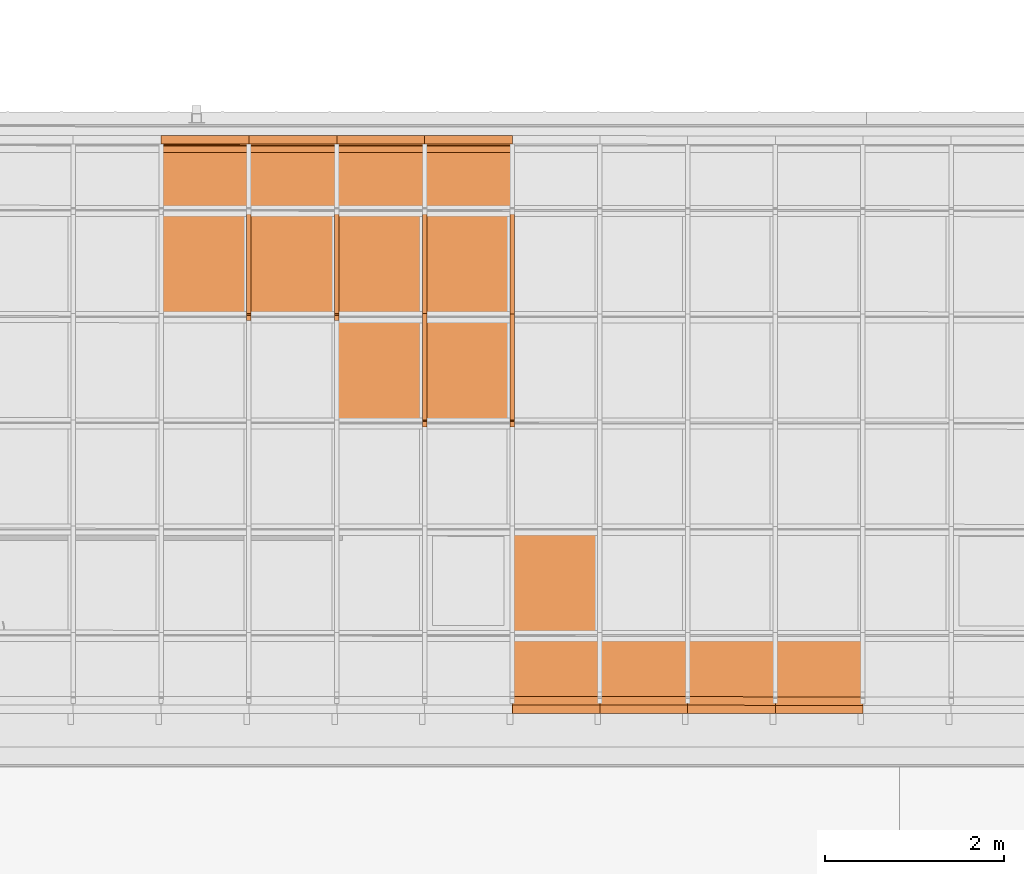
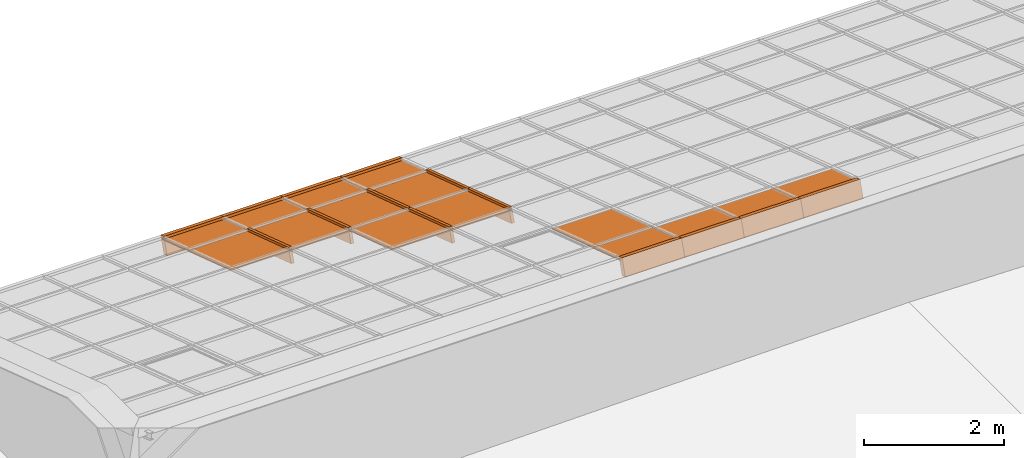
# One storey, part 33 of 47: 29 proxies, 1 element without a shape of its own.
"""IFC2X3 building model written with IfcOpenShell, lengths in millimetres."""

from ifc_helpers import new_model, entity, si_unit, converted_unit, derived_unit, money_unit, direction, frame, origin_with_axes, place, context, subcontext, project, spatial, polyline, outline, extrude, material, material_list, type_object, element, aggregate, save


model = new_model("IFC2X3")

# Units and contexts
model_context = context("Model", 3, precision=1e-05, world=origin_with_axes(), true_north=direction((0.0, 1.0)))
body_context = subcontext(model_context, "Body", "Model", "MODEL_VIEW")
ifc_project = project(units=[si_unit("LENGTHUNIT", "METRE", prefix="MILLI"), si_unit("AREAUNIT", "SQUARE_METRE"), si_unit("VOLUMEUNIT", "CUBIC_METRE"), converted_unit("PLANEANGLEUNIT", "DEGREE", entity("IfcPlaneAngleMeasure", 0.0174532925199), si_unit("PLANEANGLEUNIT", "RADIAN"), dimensions=[0, 0, 0, 0, 0, 0, 0]), si_unit("SOLIDANGLEUNIT", "STERADIAN"), money_unit("EUR"), converted_unit("TIMEUNIT", "Year", entity("IfcTimeMeasure", 31556926.0), si_unit("TIMEUNIT", "SECOND"), dimensions=[0, 0, 1, 0, 0, 0, 0]), si_unit("MASSUNIT", "GRAM", prefix="KILO"), si_unit("THERMODYNAMICTEMPERATUREUNIT", "DEGREE_CELSIUS"), si_unit("LUMINOUSINTENSITYUNIT", "LUMEN"), si_unit("ENERGYUNIT", "JOULE", prefix="MEGA"), derived_unit("THERMALCONDUCTANCEUNIT", [(si_unit("POWERUNIT", "WATT"), 1), (si_unit("LENGTHUNIT", "METRE"), -1), (si_unit("THERMODYNAMICTEMPERATUREUNIT", "KELVIN"), -1)]), derived_unit("SPECIFICHEATCAPACITYUNIT", [(si_unit("ENERGYUNIT", "JOULE"), 1), (si_unit("MASSUNIT", "GRAM", prefix="KILO"), -1), (si_unit("THERMODYNAMICTEMPERATUREUNIT", "KELVIN"), -1)]), derived_unit("MASSDENSITYUNIT", [(si_unit("MASSUNIT", "GRAM", prefix="KILO"), 1), (si_unit("VOLUMEUNIT", "CUBIC_METRE"), -1)])], contexts=[model_context])

# Site, building, storey
site_placement = place(None, origin_with_axes())
site = spatial("IfcSite", under=ifc_project, at=site_placement, Name="Site", CompositionType="ELEMENT")
building_placement = place(site_placement, origin_with_axes())
building = spatial("IfcBuilding", under=site, at=building_placement, Name="Building", CompositionType="ELEMENT")
storey_placement = place(building_placement, frame((0.0, 0.0, 6000.0), z_axis=(0.0, 0.0, 1.0), x_axis=(1.0, 0.0, 0.0)))
storey = spatial("IfcBuildingStorey", under=building, at=storey_placement, Name="KATUSEPLAAN", CompositionType="ELEMENT", Elevation=6000.0)

# Curtain wall, proxies
curtain_wall_type = type_object("IfcCurtainWallType", Name="KK-2", PredefinedType="NOTDEFINED")
curtain_wall_placement = place(storey_placement, frame((71638.1505463, 41358.6055567, 722.550081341), z_axis=(0.0, 0.0, 1.0), x_axis=(1.0, 0.0, 0.0)))
curtain_wall = element("IfcCurtainWall", 1, at=curtain_wall_placement, inside=storey, type_object=curtain_wall_type, Name="Talveaja klaaskatus")
ifc_material_1 = material(Name="Klaas")
building_element_proxy_type_1 = type_object("IfcBuildingElementProxyType", Name="Panel-Main-221", PredefinedType="NOTDEFINED")
proxy_1_placement = place(curtain_wall_placement, frame((1959.99916937, -0.563334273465, 1978.14906246), z_axis=(0.0, 0.0, 1.0), x_axis=(-0.999995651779, 0.00294896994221, 0.0)))
proxy_1 = element("IfcBuildingElementProxy", 2, at=proxy_1_placement, type_object=building_element_proxy_type_1, material=ifc_material_1, Name="Klaas;  Objekti nimi: Built-in CW Panel", context=body_context, shape_type="SweptSolid", body=[
    extrude(outline(polyline([(494.147754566, -304.892907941), (496.403760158, 500.364911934), (491.403775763, 500.378914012), (491.417792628, 505.378898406), (-488.578365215, 508.124444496), (-488.592367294, 503.124474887), (-493.59235169, 503.138462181), (-495.848357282, -302.119342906), (-490.848372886, -302.133359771), (-490.792349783, -282.133436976), (489.203808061, -284.878983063), (489.147770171, -304.878905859), (494.147754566, -304.892907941)])), frame((1.13686837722e-10, -3.12191252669, 9.5001927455), z_axis=(0.0, 0.312191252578, -0.950019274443), x_axis=(1.0, 0.0, 0.0)), (0.0, 0.0, 1.0), 20.0000000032),
])
building_element_proxy_type_2 = type_object("IfcBuildingElementProxyType", Name="Panel-Main-167", PredefinedType="NOTDEFINED")
proxy_2_placement = place(curtain_wall_placement, frame((979.999584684, 1070.15648036, 1627.24494272), z_axis=(0.0, 0.0, 1.0), x_axis=(-0.999995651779, 0.00294896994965, 0.0)))
proxy_2 = element("IfcBuildingElementProxy", 3, at=proxy_2_placement, type_object=building_element_proxy_type_2, material=ifc_material_1, Name="Klaas;  Objekti nimi: Built-in CW Panel", context=body_context, shape_type="SweptSolid", body=[
    extrude(outline(polyline([(488.233079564, -631.370301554), (488.247097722, -626.370316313), (493.247064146, -626.38433447), (496.749044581, 623.610771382), (491.749059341, 623.624770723), (491.763077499, 628.624755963), (-488.233069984, 631.370301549), (-488.247088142, 626.370316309), (-493.247073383, 626.38431565), (-496.749035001, -623.610752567), (-491.749049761, -623.624770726), (-491.763067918, -628.624755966), (488.233079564, -631.370301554)])), frame((0.0, -3.12191252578, 9.50019274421), z_axis=(0.0, 0.312191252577, -0.950019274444), x_axis=(1.0, 0.0, 0.0)), (0.0, 0.0, 1.0), 20.0000000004),
])
building_element_proxy_type_3 = type_object("IfcBuildingElementProxyType", Name="Panel-Dist-157", PredefinedType="NOTDEFINED")
proxy_3_placement = place(curtain_wall_placement, frame((-2944.49875215, 4633.85823123, 459.964819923), z_axis=(0.0, 0.0, 1.0), x_axis=(-0.999995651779, 0.0029489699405, 0.0)))
proxy_3 = element("IfcBuildingElementProxy", 4, at=proxy_3_placement, type_object=building_element_proxy_type_3, material=ifc_material_1, Name="Klaas;  Objekti nimi: Built-in CW Panel", context=body_context, shape_type="SweptSolid", body=[
    extrude(outline(polyline([(489.73307344, -631.374503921), (489.747091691, -626.374523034), (494.747072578, -626.388522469), (498.249038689, 623.606567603), (493.249057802, 623.620567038), (493.263057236, 628.620547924), (-489.733083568, 631.374503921), (-489.747101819, 626.374523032), (-494.747082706, 626.388522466), (-498.249048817, -623.606567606), (-493.24906793, -623.62056704), (-493.263067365, -628.620547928), (489.73307344, -631.374503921)])), frame((0.0, -3.12191252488, 9.50019274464), z_axis=(0.0, 0.312191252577, -0.950019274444), x_axis=(1.0, 0.0, 0.0)), (0.0, 0.0, 1.0), 20.0000000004),
])
building_element_proxy_type_4 = type_object("IfcBuildingElementProxyType", Name="Panel-Main-126", PredefinedType="NOTDEFINED")
proxy_4_placement = place(curtain_wall_placement, frame((-1961.49916873, 4633.57570185, 459.105060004), z_axis=(0.0, 0.0, 1.0), x_axis=(-0.999995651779, 0.0029489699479, 0.0)))
proxy_4 = element("IfcBuildingElementProxy", 5, at=proxy_4_placement, type_object=building_element_proxy_type_4, material=ifc_material_1, Name="Klaas;  Objekti nimi: Built-in CW Panel", context=body_context, shape_type="SweptSolid", body=[
    extrude(outline(polyline([(489.733073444, -631.374503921), (489.747091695, -626.374523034), (494.747072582, -626.388522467), (498.249038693, 623.606567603), (493.249057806, 623.620567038), (493.263057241, 628.620547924), (-489.733083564, 631.374503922), (-489.747101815, 626.374523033), (-494.747082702, 626.388522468), (-498.249048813, -623.606567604), (-493.249067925, -623.620567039), (-493.26306736, -628.620547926), (489.733073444, -631.374503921)])), frame((1.13686837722e-10, -3.12191252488, 9.50019274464), z_axis=(0.0, 0.312191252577, -0.950019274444), x_axis=(1.0, 0.0, 0.0)), (0.0, 0.0, 1.0), 20.0000000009),
])
building_element_proxy_type_5 = type_object("IfcBuildingElementProxyType", Name="Panel-Dist-158", PredefinedType="NOTDEFINED")
proxy_5_placement = place(curtain_wall_placement, frame((-979.999584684, 4633.29360359, 458.246612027), z_axis=(0.0, 0.0, 1.0), x_axis=(-0.999995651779, 0.00294896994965, 0.0)))
proxy_5 = element("IfcBuildingElementProxy", 6, at=proxy_5_placement, type_object=building_element_proxy_type_5, material=ifc_material_1, Name="Klaas;  Objekti nimi: Built-in CW Panel", context=body_context, shape_type="SweptSolid", body=[
    extrude(outline(polyline([(488.233079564, -631.370301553), (488.247097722, -626.370316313), (493.247064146, -626.384334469), (496.749044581, 623.610771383), (491.74905934, 623.624770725), (491.763077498, 628.624755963), (-488.233069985, 631.370301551), (-488.247088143, 626.370316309), (-493.247073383, 626.38431565), (-496.749035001, -623.610752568), (-491.749049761, -623.624770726), (-491.763067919, -628.624755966), (488.233079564, -631.370301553)])), frame((1.13686837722e-10, -3.12191252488, 9.50019274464), z_axis=(0.0, 0.312191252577, -0.950019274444), x_axis=(1.0, 0.0, 0.0)), (0.0, 0.0, 1.0), 20.0000000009),
])
building_element_proxy_type_6 = type_object("IfcBuildingElementProxyType", Name="Panel-Main-127", PredefinedType="NOTDEFINED")
proxy_6_placement = place(curtain_wall_placement, frame((0.0, 4633.01193645, 457.389475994), z_axis=(0.0, 0.0, 1.0), x_axis=(-0.999995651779, 0.00294896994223, 0.0)))
proxy_6 = element("IfcBuildingElementProxy", 7, at=proxy_6_placement, type_object=building_element_proxy_type_6, material=ifc_material_1, Name="Klaas;  Objekti nimi: Built-in CW Panel", context=body_context, shape_type="SweptSolid", body=[
    extrude(outline(polyline([(488.23307956, -631.370301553), (488.247097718, -626.370316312), (493.247064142, -626.38433447), (496.749044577, 623.610771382), (491.749059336, 623.624770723), (491.763077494, 628.624755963), (-488.233069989, 631.37030155), (-488.247088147, 626.37031631), (-493.247073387, 626.384315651), (-496.749035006, -623.610752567), (-491.749049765, -623.624770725), (-491.763067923, -628.624755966), (488.23307956, -631.370301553)])), frame((1.13686837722e-10, -3.12191252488, 9.50019274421), z_axis=(0.0, 0.312191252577, -0.950019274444), x_axis=(1.0, 0.0, 0.0)), (0.0, 0.0, 1.0), 20.0000000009),
])
building_element_proxy_type_7 = type_object("IfcBuildingElementProxyType", Name="Panel-Main-138", PredefinedType="NOTDEFINED")
proxy_7_placement = place(curtain_wall_placement, frame((-979.999584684, 3445.76900727, 848.484146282), z_axis=(0.0, 0.0, 1.0), x_axis=(-0.999995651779, 0.00294896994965, 0.0)))
proxy_7 = element("IfcBuildingElementProxy", 8, at=proxy_7_placement, type_object=building_element_proxy_type_7, material=ifc_material_1, Name="Klaas;  Objekti nimi: Built-in CW Panel", context=body_context, shape_type="SweptSolid", body=[
    extrude(outline(polyline([(488.233079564, -631.370301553), (488.247097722, -626.370316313), (493.247064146, -626.38433447), (496.749044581, 623.610771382), (491.74905934, 623.624770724), (491.763077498, 628.624755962), (-488.233069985, 631.37030155), (-488.247088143, 626.370316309), (-493.247073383, 626.38431565), (-496.749035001, -623.610752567), (-491.749049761, -623.624770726), (-491.763067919, -628.624755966), (488.233079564, -631.370301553)])), frame((1.13686837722e-10, -3.12191252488, 9.50019274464), z_axis=(0.0, 0.312191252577, -0.950019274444), x_axis=(1.0, 0.0, 0.0)), (0.0, 0.0, 1.0), 20.0000000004),
])
building_element_proxy_type_8 = type_object("IfcBuildingElementProxyType", Name="Panel-Dist-170", PredefinedType="NOTDEFINED")
proxy_8_placement = place(curtain_wall_placement, frame((0.0, 3445.48734013, 847.627010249), z_axis=(0.0, 0.0, 1.0), x_axis=(-0.999995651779, 0.00294896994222, 0.0)))
proxy_8 = element("IfcBuildingElementProxy", 9, at=proxy_8_placement, type_object=building_element_proxy_type_8, material=ifc_material_1, Name="Klaas;  Objekti nimi: Built-in CW Panel", context=body_context, shape_type="SweptSolid", body=[
    extrude(outline(polyline([(488.23307956, -631.370301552), (488.247097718, -626.370316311), (493.247064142, -626.384334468), (496.749044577, 623.610771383), (491.749059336, 623.624770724), (491.763077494, 628.624755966), (-488.233069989, 631.370301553), (-488.247088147, 626.370316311), (-493.247073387, 626.384315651), (-496.749035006, -623.610752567), (-491.749049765, -623.624770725), (-491.763067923, -628.624755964), (488.23307956, -631.370301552)])), frame((0.0, -3.12191252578, 9.50019274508), z_axis=(0.0, 0.312191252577, -0.950019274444), x_axis=(1.0, 0.0, 0.0)), (0.0, 0.0, 1.0), 20.0000000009),
])
building_element_proxy_type_9 = type_object("IfcBuildingElementProxyType", Name="Panel-Main-072", PredefinedType="NOTDEFINED")
proxy_9_placement = place(curtain_wall_placement, frame((0.0, 5604.28308921, 138.21591031), z_axis=(0.0, 0.0, 1.0), x_axis=(-0.999995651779, 0.00294896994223, 0.0)))
proxy_9 = element("IfcBuildingElementProxy", 10, at=proxy_9_placement, type_object=building_element_proxy_type_9, material=ifc_material_1, Name="Klaas;  Objekti nimi: Built-in CW Panel", context=body_context, shape_type="SweptSolid", body=[
    extrude(outline(polyline([(488.870818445, -403.740707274), (488.884820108, -398.740723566), (493.88478903, -398.754740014), (496.111319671, 395.981176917), (491.111335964, 395.995178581), (491.055314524, 375.995258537), (-488.940856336, 378.740796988), (-488.884805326, 398.740731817), (-493.884789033, 398.75473348), (-496.111319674, -395.981168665), (-491.111335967, -395.995170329), (-491.12533763, -400.995154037), (488.870818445, -403.740707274)])), frame((1.13686837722e-10, -3.12191252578, 9.50019274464), z_axis=(0.0, 0.312191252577, -0.950019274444), x_axis=(1.0, 0.0, 0.0)), (0.0, 0.0, 1.0), 20.0000000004),
])
building_element_proxy_type_10 = type_object("IfcBuildingElementProxyType", Name="Panel-Main-219", PredefinedType="NOTDEFINED")
proxy_10_placement = place(curtain_wall_placement, frame((3919.99833874, -1.12666854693, 1976.43479039), z_axis=(0.0, 0.0, 1.0), x_axis=(-0.999995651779, 0.00294896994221, 0.0)))
proxy_10 = element("IfcBuildingElementProxy", 11, at=proxy_10_placement, type_object=building_element_proxy_type_10, material=ifc_material_1, Name="Klaas;  Objekti nimi: Built-in CW Panel", context=body_context, shape_type="SweptSolid", body=[
    extrude(outline(polyline([(494.147754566, -304.892907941), (496.403760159, 500.364911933), (491.403775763, 500.378914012), (491.417792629, 505.378898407), (-488.578365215, 508.124444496), (-488.592367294, 503.124474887), (-493.59235169, 503.13846218), (-495.848357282, -302.119342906), (-490.848372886, -302.13335977), (-490.792349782, -282.133436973), (489.203808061, -284.878983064), (489.147770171, -304.87890586), (494.147754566, -304.892907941)])), frame((2.27373675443e-10, -3.12191252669, 9.5001927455), z_axis=(0.0, 0.312191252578, -0.950019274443), x_axis=(1.0, 0.0, 0.0)), (0.0, 0.0, 1.0), 20.0000000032),
])
building_element_proxy_type_11 = type_object("IfcBuildingElementProxyType", Name="Panel-Main-117", PredefinedType="NOTDEFINED")
proxy_11_placement = place(curtain_wall_placement, frame((-979.999584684, 5604.56475634, 139.073046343), z_axis=(0.0, 0.0, 1.0), x_axis=(-0.999995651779, 0.00294896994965, 0.0)))
proxy_11 = element("IfcBuildingElementProxy", 12, at=proxy_11_placement, type_object=building_element_proxy_type_11, material=ifc_material_1, Name="Klaas;  Objekti nimi: Built-in CW Panel", context=body_context, shape_type="SweptSolid", body=[
    extrude(outline(polyline([(488.870818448, -403.740707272), (488.884820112, -398.740723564), (493.884789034, -398.754740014), (496.111319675, 395.981176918), (491.111335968, 395.995178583), (491.055314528, 375.99525854), (-488.940856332, 378.740796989), (-488.884805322, 398.740731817), (-493.884789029, 398.754733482), (-496.11131967, -395.981168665), (-491.111335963, -395.99517033), (-491.125337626, -400.995154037), (488.870818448, -403.740707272)])), frame((2.27373675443e-10, -3.12191252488, 9.50019274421), z_axis=(0.0, 0.312191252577, -0.950019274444), x_axis=(1.0, 0.0, 0.0)), (0.0, 0.0, 1.0), 20.0),
])
building_element_proxy_type_12 = type_object("IfcBuildingElementProxyType", Name="Panel-Main-222", PredefinedType="NOTDEFINED")
proxy_12_placement = place(curtain_wall_placement, frame((979.999584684, -0.281667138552, 1979.00619849), z_axis=(0.0, 0.0, 1.0), x_axis=(-0.999995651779, 0.00294896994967, 0.0)))
proxy_12 = element("IfcBuildingElementProxy", 13, at=proxy_12_placement, type_object=building_element_proxy_type_12, material=ifc_material_1, Name="Klaas;  Objekti nimi: Built-in CW Panel", context=body_context, shape_type="SweptSolid", body=[
    extrude(outline(polyline([(494.14775457, -304.892907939), (496.403760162, 500.364911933), (491.403790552, 500.378899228), (491.417792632, 505.378898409), (-488.578350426, 508.124444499), (-488.592382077, 503.124474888), (-493.592336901, 503.138462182), (-495.848357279, -302.119357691), (-490.848372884, -302.13335977), (-490.792349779, -282.133422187), (489.203808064, -284.878968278), (489.147770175, -304.878905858), (494.14775457, -304.892907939)])), frame((1.13686837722e-10, -3.12191252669, 9.50019274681), z_axis=(0.0, 0.312191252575, -0.950019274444), x_axis=(1.0, 0.0, 0.0)), (0.0, 0.0, 1.0), 20.0000000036),
])
building_element_proxy_type_13 = type_object("IfcBuildingElementProxyType", Name="Panel-Main-123", PredefinedType="NOTDEFINED")
proxy_13_placement = place(curtain_wall_placement, frame((-2944.49875215, 5605.12938399, 140.791254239), z_axis=(0.0, 0.0, 1.0), x_axis=(-0.999995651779, 0.00294896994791, 0.0)))
proxy_13 = element("IfcBuildingElementProxy", 14, at=proxy_13_placement, type_object=building_element_proxy_type_13, material=ifc_material_1, Name="Klaas;  Objekti nimi: Built-in CW Panel", context=body_context, shape_type="SweptSolid", body=[
    extrude(outline(polyline([(490.370795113, -403.744911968), (490.384809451, -398.744922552), (495.384784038, -398.75893689), (497.611313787, 395.976963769), (492.6113392, 395.990978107), (492.55529668, 375.991050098), (-490.440837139, 378.745008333), (-490.384809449, 398.744936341), (-495.384798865, 398.758935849), (-497.611313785, -395.976964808), (-492.611339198, -395.990964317), (-492.625338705, -400.990953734), (490.370795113, -403.744911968)])), frame((0.0, -3.12191252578, 9.50019274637), z_axis=(0.0, 0.312191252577, -0.950019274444), x_axis=(1.0, 0.0, 0.0)), (0.0, 0.0, 1.0), 20.0000000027),
])
building_element_proxy_type_14 = type_object("IfcBuildingElementProxyType", Name="Panel-Main-220", PredefinedType="NOTDEFINED")
proxy_14_placement = place(curtain_wall_placement, frame((2939.99875405, -0.845001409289, 1977.29192642), z_axis=(0.0, 0.0, 1.0), x_axis=(-0.999995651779, 0.00294896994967, 0.0)))
proxy_14 = element("IfcBuildingElementProxy", 15, at=proxy_14_placement, type_object=building_element_proxy_type_14, material=ifc_material_1, Name="Klaas;  Objekti nimi: Built-in CW Panel", context=body_context, shape_type="SweptSolid", body=[
    extrude(outline(polyline([(494.14775457, -304.892907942), (496.403760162, 500.36491193), (491.403790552, 500.378899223), (491.417792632, 505.378898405), (-488.578350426, 508.124444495), (-488.592382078, 503.124474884), (-493.592336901, 503.138462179), (-495.848357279, -302.119357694), (-490.848372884, -302.133359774), (-490.79234978, -282.133422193), (489.203808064, -284.87896828), (489.147770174, -304.878905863), (494.14775457, -304.892907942)])), frame((0.0, -3.12191252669, 9.50019274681), z_axis=(0.0, 0.312191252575, -0.950019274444), x_axis=(1.0, 0.0, 0.0)), (0.0, 0.0, 1.0), 20.0000000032),
])
building_element_proxy_type_15 = type_object("IfcBuildingElementProxyType", Name="Panel-Main-071", PredefinedType="NOTDEFINED")
proxy_15_placement = place(curtain_wall_placement, frame((-1961.49916873, 5604.8468546, 139.93149432), z_axis=(0.0, 0.0, 1.0), x_axis=(-0.999995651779, 0.00294896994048, 0.0)))
proxy_15 = element("IfcBuildingElementProxy", 16, at=proxy_15_placement, type_object=building_element_proxy_type_15, material=ifc_material_1, Name="Klaas;  Objekti nimi: Built-in CW Panel", context=body_context, shape_type="SweptSolid", body=[
    extrude(outline(polyline([(490.37079511, -403.744911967), (490.384809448, -398.744922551), (495.384784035, -398.758936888), (497.611313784, 395.97696377), (492.611339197, 395.990978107), (492.555296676, 375.9910501), (-490.440837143, 378.745008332), (-490.384809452, 398.744936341), (-495.384798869, 398.758935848), (-497.611313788, -395.976964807), (-492.611339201, -395.990964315), (-492.625338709, -400.990953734), (490.37079511, -403.744911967)])), frame((1.13686837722e-10, -3.12191252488, 9.50019274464), z_axis=(0.0, 0.312191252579, -0.950019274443), x_axis=(1.0, 0.0, 0.0)), (0.0, 0.0, 1.0), 20.0000000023),
])
ifc_material_2 = material(Name="Alumiinium (1)")
ifc_material_list = material_list([ifc_material_2, ifc_material_2])
building_element_proxy_type_16 = type_object("IfcBuildingElementProxyType", Name="Frame-Mll-221", PredefinedType="NOTDEFINED")
proxy_16_placement = place(curtain_wall_placement, frame((-2452.99896044, 5227.4792647, 264.416172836), z_axis=(0.0, -0.950019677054, 0.312190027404), x_axis=(-0.999999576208, 0.000287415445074, 0.000874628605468)))
proxy_16 = element("IfcBuildingElementProxy", 17, at=proxy_16_placement, type_object=building_element_proxy_type_16, material=ifc_material_list, Name="Alumiinium (1);  Objekti nimi: Frame 22", context=body_context, shape_type="SweptSolid", body=[
    extrude(outline(polyline([(25.0091958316, 9.9769796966), (25.1841179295, 199.976899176), (-24.8158608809, 200.022931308), (-24.9907829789, 10.0230118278), (25.0091958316, 9.9769796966)])), frame((0.0, 0.0, -1.81898940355e-09), z_axis=(0.0, 0.0, 1.0), x_axis=(0.999999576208, 0.000920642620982, 0.0)), (0.0, 0.0, 1.0), 1250.0),
    extrude(outline(polyline([(-25.0091958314, -9.9769796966), (-25.0460215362, -49.9769627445), (24.9539572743, -50.0229948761), (24.9907829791, -10.0230118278), (-25.0091958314, -9.9769796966)])), frame((0.0, 0.0, -9.09494701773e-10), z_axis=(0.0, 0.0, 1.0), x_axis=(0.999999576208, 0.000920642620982, 0.0)), (0.0, 0.0, 1.0), 1250.0),
])
building_element_proxy_type_17 = type_object("IfcBuildingElementProxyType", Name="Frame-Mll-222", PredefinedType="NOTDEFINED")
proxy_17_placement = place(curtain_wall_placement, frame((-1469.99937703, 5227.19673532, 263.556412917), z_axis=(0.0, -0.950019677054, 0.312190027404), x_axis=(-0.999999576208, 0.000287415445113, 0.000874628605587)))
proxy_17 = element("IfcBuildingElementProxy", 18, at=proxy_17_placement, type_object=building_element_proxy_type_17, material=ifc_material_list, Name="Alumiinium (1);  Objekti nimi: Frame 22", context=body_context, shape_type="SweptSolid", body=[
    extrude(outline(polyline([(25.0091958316, 9.97697969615), (25.1841179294, 199.976899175), (-24.8158608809, 200.022931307), (-24.990782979, 10.0230118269), (25.0091958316, 9.97697969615)])), frame((0.0, 0.0, 0.0), z_axis=(0.0, 0.0, 1.0), x_axis=(0.999999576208, 0.000920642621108, 0.0)), (0.0, 0.0, 1.0), 1250.0),
    extrude(outline(polyline([(-25.0091958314, -9.97697969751), (-25.0460215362, -49.9769627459), (24.9539572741, -50.0229948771), (24.990782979, -10.0230118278), (-25.0091958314, -9.97697969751)])), frame((0.0, 0.0, 0.0), z_axis=(0.0, 0.0, 1.0), x_axis=(0.999999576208, 0.000920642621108, 0.0)), (0.0, 0.0, 1.0), 1250.0),
])
building_element_proxy_type_18 = type_object("IfcBuildingElementProxyType", Name="Frame-Mll-223", PredefinedType="NOTDEFINED")
proxy_18_placement = place(curtain_wall_placement, frame((-489.999792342, 5226.91506818, 262.699276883), z_axis=(0.0, -0.950019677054, 0.312190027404), x_axis=(-0.999999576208, 0.000287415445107, 0.00087462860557)))
proxy_18 = element("IfcBuildingElementProxy", 19, at=proxy_18_placement, type_object=building_element_proxy_type_18, material=ifc_material_list, Name="Alumiinium (1);  Objekti nimi: Frame 22", context=body_context, shape_type="SweptSolid", body=[
    extrude(outline(polyline([(25.0091958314, 9.9769796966), (25.1841179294, 199.976899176), (-24.8158608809, 200.022931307), (-24.990782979, 10.0230118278), (25.0091958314, 9.9769796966)])), frame((0.0, 0.0, -2.72848410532e-09), z_axis=(0.0, 0.0, 1.0), x_axis=(0.999999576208, 0.00092064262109, 0.0)), (0.0, 0.0, 1.0), 1250.0),
    extrude(outline(polyline([(-25.0091958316, -9.97697969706), (-25.0460215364, -49.9769627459), (24.9539572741, -50.0229948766), (24.990782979, -10.0230118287), (-25.0091958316, -9.97697969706)])), frame((0.0, 0.0, -2.72848410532e-09), z_axis=(0.0, 0.0, 1.0), x_axis=(0.999999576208, 0.00092064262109, 0.0)), (0.0, 0.0, 1.0), 1250.0),
])
building_element_proxy_type_19 = type_object("IfcBuildingElementProxyType", Name="Frame-Mll-224", PredefinedType="NOTDEFINED")
proxy_19_placement = place(curtain_wall_placement, frame((489.999792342, 5226.63340104, 261.84214085), z_axis=(0.0, -0.950019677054, 0.312190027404), x_axis=(-0.999999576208, 0.000287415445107, 0.00087462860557)))
proxy_19 = element("IfcBuildingElementProxy", 20, at=proxy_19_placement, type_object=building_element_proxy_type_19, material=ifc_material_list, Name="Alumiinium (1);  Objekti nimi: Frame 22", context=body_context, shape_type="SweptSolid", body=[
    extrude(outline(polyline([(25.0091958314, 9.9769796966), (25.1841179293, 199.976899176), (-24.8158608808, 200.022931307), (-24.990782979, 10.0230118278), (25.0091958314, 9.9769796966)])), frame((0.0, 0.0, -1.81898940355e-09), z_axis=(0.0, 0.0, 1.0), x_axis=(0.999999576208, 0.00092064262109, 0.0)), (0.0, 0.0, 1.0), 1250.0),
    extrude(outline(polyline([(-25.0091958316, -9.9769796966), (-25.0460215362, -49.9769627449), (24.9539572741, -50.0229948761), (24.9907829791, -10.0230118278), (-25.0091958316, -9.9769796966)])), frame((0.0, 0.0, -1.81898940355e-09), z_axis=(0.0, 0.0, 1.0), x_axis=(0.999999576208, 0.00092064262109, 0.0)), (0.0, 0.0, 1.0), 1250.0),
])
building_element_proxy_type_20 = type_object("IfcBuildingElementProxyType", Name="Frame-Mll-246", PredefinedType="NOTDEFINED")
proxy_20_placement = place(curtain_wall_placement, frame((-489.999792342, 4039.39047186, 652.936811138), z_axis=(0.0, -0.950019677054, 0.312190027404), x_axis=(-0.999999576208, 0.000287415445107, 0.00087462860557)))
proxy_20 = element("IfcBuildingElementProxy", 21, at=proxy_20_placement, type_object=building_element_proxy_type_20, material=ifc_material_list, Name="Alumiinium (1);  Objekti nimi: Frame 22", context=body_context, shape_type="SweptSolid", body=[
    extrude(outline(polyline([(25.0091958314, 9.97697969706), (25.1841179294, 199.976899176), (-24.8158608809, 200.022931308), (-24.9907829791, 10.0230118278), (25.0091958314, 9.97697969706)])), frame((0.0, 0.0, 0.0), z_axis=(0.0, 0.0, 1.0), x_axis=(0.999999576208, 0.00092064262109, 0.0)), (0.0, 0.0, 1.0), 1250.0),
    extrude(outline(polyline([(-25.0091958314, -9.97697969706), (-25.0460215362, -49.9769627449), (24.9539572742, -50.0229948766), (24.990782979, -10.0230118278), (-25.0091958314, -9.97697969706)])), frame((0.0, 0.0, -9.09494701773e-10), z_axis=(0.0, 0.0, 1.0), x_axis=(0.999999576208, 0.00092064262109, 0.0)), (0.0, 0.0, 1.0), 1250.0),
])
building_element_proxy_type_21 = type_object("IfcBuildingElementProxyType", Name="Frame-Mll-247", PredefinedType="NOTDEFINED")
proxy_21_placement = place(curtain_wall_placement, frame((489.999792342, 4039.10880473, 652.079675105), z_axis=(0.0, -0.950019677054, 0.312190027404), x_axis=(-0.999999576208, 0.000287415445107, 0.00087462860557)))
proxy_21 = element("IfcBuildingElementProxy", 22, at=proxy_21_placement, type_object=building_element_proxy_type_21, material=ifc_material_list, Name="Alumiinium (1);  Objekti nimi: Frame 22", context=body_context, shape_type="SweptSolid", body=[
    extrude(outline(polyline([(25.0091958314, 9.97697969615), (25.1841179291, 199.976899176), (-24.8158608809, 200.022931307), (-24.9907829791, 10.0230118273), (25.0091958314, 9.97697969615)])), frame((0.0, 4.54747350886e-10, -2.72848410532e-09), z_axis=(0.0, 0.0, 1.0), x_axis=(0.999999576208, 0.00092064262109, 0.0)), (0.0, 0.0, 1.0), 1250.0),
    extrude(outline(polyline([(-25.0091958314, -9.97697969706), (-25.0460215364, -49.9769627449), (24.9539572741, -50.0229948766), (24.990782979, -10.0230118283), (-25.0091958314, -9.97697969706)])), frame((0.0, 0.0, -9.09494701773e-10), z_axis=(0.0, 0.0, 1.0), x_axis=(0.999999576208, 0.00092064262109, 0.0)), (0.0, 0.0, 1.0), 1250.0),
])
building_element_proxy_type_22 = type_object("IfcBuildingElementProxyType", Name="Frame-Bnd-652", PredefinedType="NOTDEFINED")
proxy_22_placement = place(curtain_wall_placement, frame((4409.99813108, -289.605426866, 2070.75818047), z_axis=(-0.999999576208, 0.00028741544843, 0.000874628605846), x_axis=(0.0, 0.950019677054, -0.312190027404)))
proxy_22 = element("IfcBuildingElementProxy", 23, at=proxy_22_placement, type_object=building_element_proxy_type_22, material=ifc_material_2, Name="Alumiinium (1);  Objekti nimi: Built-in Frame", context=body_context, shape_type="SweptSolid", body=[
    extrude(outline(polyline([(15.8784912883, 15.7439993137), (44.379080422, 25.109703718), (-30.5465548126, 253.114416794), (-125.548518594, 221.895402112), (-31.8914745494, -63.110489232), (63.1104892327, -31.8914745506), (50.6228833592, 6.10931096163), (22.1222942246, -3.25639344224), (15.8784912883, 15.7439993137)])), frame((0.0, 0.0, -2.27373675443e-10), z_axis=(0.0, 0.0, 1.0), x_axis=(0.950019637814, -0.312190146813, 0.0)), (0.0, 0.0, 1.0), 980.000000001),
])
building_element_proxy_type_23 = type_object("IfcBuildingElementProxyType", Name="Frame-Bnd-653", PredefinedType="NOTDEFINED")
proxy_23_placement = place(curtain_wall_placement, frame((3429.9985464, -289.323759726, 2071.6153165), z_axis=(-0.999999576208, 0.000287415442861, 0.000874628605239), x_axis=(0.0, 0.950019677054, -0.312190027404)))
proxy_23 = element("IfcBuildingElementProxy", 24, at=proxy_23_placement, type_object=building_element_proxy_type_23, material=ifc_material_2, Name="Alumiinium (1);  Objekti nimi: Built-in Frame", context=body_context, shape_type="SweptSolid", body=[
    extrude(outline(polyline([(15.8784912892, 15.7439993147), (44.3790804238, 25.1097037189), (-30.5465548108, 253.114416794), (-125.548518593, 221.895402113), (-31.8914745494, -63.1104892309), (63.1104892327, -31.8914745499), (50.6228833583, 6.10931096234), (22.1222942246, -3.25639344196), (15.8784912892, 15.7439993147)])), frame((0.0, 0.0, -4.54747350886e-10), z_axis=(0.0, 0.0, 1.0), x_axis=(0.950019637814, -0.312190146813, 0.0)), (0.0, 0.0, 1.0), 980.000000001),
])
building_element_proxy_type_24 = type_object("IfcBuildingElementProxyType", Name="Frame-Bnd-615", PredefinedType="NOTDEFINED")
proxy_24_placement = place(curtain_wall_placement, frame((-1469.99937703, 5982.21444451, 15.4468158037), z_axis=(0.999999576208, -0.00028741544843, -0.00087462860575), x_axis=(0.0, -0.950019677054, 0.312190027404)))
proxy_24 = element("IfcBuildingElementProxy", 25, at=proxy_24_placement, type_object=building_element_proxy_type_24, material=ifc_material_2, Name="Alumiinium (1);  Objekti nimi: Built-in Frame", context=body_context, shape_type="SweptSolid", body=[
    extrude(outline(polyline([(22.1222942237, 3.25639344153), (50.6228833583, -6.10931096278), (125.548518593, 221.895402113), (30.5465548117, 253.114416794), (-63.1104892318, -31.8914745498), (31.8914745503, -63.1104892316), (44.3790804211, -25.1097037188), (15.8784912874, -15.7439993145), (22.1222942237, 3.25639344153)])), frame((0.0, 0.0, -6.8212102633e-10), z_axis=(0.0, 0.0, 1.0), x_axis=(0.950019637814, 0.312190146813, 0.0)), (0.0, 0.0, 1.0), 980.000000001),
])
building_element_proxy_type_25 = type_object("IfcBuildingElementProxyType", Name="Frame-Bnd-613", PredefinedType="NOTDEFINED")
proxy_25_placement = place(curtain_wall_placement, frame((-3435.99854385, 5982.77950327, 17.166335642), z_axis=(0.999999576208, -0.000287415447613, -0.000874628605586), x_axis=(0.0, -0.950019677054, 0.312190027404)))
proxy_25 = element("IfcBuildingElementProxy", 26, at=proxy_25_placement, type_object=building_element_proxy_type_25, material=ifc_material_2, Name="Alumiinium (1);  Objekti nimi: Built-in Frame", context=body_context, shape_type="SweptSolid", body=[
    extrude(outline(polyline([(22.1222942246, 3.25639344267), (50.6228833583, -6.10931096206), (125.548518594, 221.895402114), (30.5465548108, 253.114416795), (-63.1104892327, -31.891474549), (31.8914745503, -63.1104892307), (44.379080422, -25.1097037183), (15.8784912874, -15.7439993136), (22.1222942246, 3.25639344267)])), frame((0.0, 0.0, 0.0), z_axis=(0.0, 0.0, 1.0), x_axis=(0.950019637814, 0.312190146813, 0.0)), (0.0, 0.0, 1.0), 983.000000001),
])
building_element_proxy_type_26 = type_object("IfcBuildingElementProxyType", Name="Frame-Bnd-654", PredefinedType="NOTDEFINED")
proxy_26_placement = place(curtain_wall_placement, frame((2449.99896171, -289.042092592, 2072.47245253), z_axis=(-0.999999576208, 0.00028741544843, 0.000874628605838), x_axis=(0.0, 0.950019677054, -0.312190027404)))
proxy_26 = element("IfcBuildingElementProxy", 27, at=proxy_26_placement, type_object=building_element_proxy_type_26, material=ifc_material_2, Name="Alumiinium (1);  Objekti nimi: Built-in Frame", context=body_context, shape_type="SweptSolid", body=[
    extrude(outline(polyline([(15.8784912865, 15.7439993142), (44.3790804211, 25.1097037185), (-30.5465548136, 253.114416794), (-125.548518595, 221.895402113), (-31.8914745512, -63.1104892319), (63.11048923, -31.8914745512), (50.6228833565, 6.10931096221), (22.1222942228, -3.2563934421), (15.8784912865, 15.7439993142)])), frame((0.0, 0.0, -2.27373675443e-10), z_axis=(0.0, 0.0, 1.0), x_axis=(0.950019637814, -0.312190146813, 0.0)), (0.0, 0.0, 1.0), 980.000000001),
])
building_element_proxy_type_27 = type_object("IfcBuildingElementProxyType", Name="Frame-Bnd-614", PredefinedType="NOTDEFINED")
proxy_27_placement = place(curtain_wall_placement, frame((-2452.99896044, 5982.49697389, 16.3065757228), z_axis=(0.999999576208, -0.000287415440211, -0.000874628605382), x_axis=(0.0, -0.950019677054, 0.312190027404)))
proxy_27 = element("IfcBuildingElementProxy", 28, at=proxy_27_placement, type_object=building_element_proxy_type_27, material=ifc_material_2, Name="Alumiinium (1);  Objekti nimi: Built-in Frame", context=body_context, shape_type="SweptSolid", body=[
    extrude(outline(polyline([(22.1222942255, 3.25639344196), (50.6228833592, -6.10931096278), (125.548518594, 221.895402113), (30.5465548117, 253.114416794), (-63.1104892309, -31.8914745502), (31.8914745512, -63.1104892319), (44.3790804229, -25.109703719), (15.8784912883, -15.7439993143), (22.1222942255, 3.25639344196)])), frame((0.0, 0.0, -5.68434188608e-10), z_axis=(0.0, 0.0, 1.0), x_axis=(0.950019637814, 0.312190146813, 0.0)), (0.0, 0.0, 1.0), 983.000000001),
])
building_element_proxy_type_28 = type_object("IfcBuildingElementProxyType", Name="Frame-Bnd-655", PredefinedType="NOTDEFINED")
proxy_28_placement = place(curtain_wall_placement, frame((1469.99937703, -288.760425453, 2073.32958857), z_axis=(-0.999999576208, 0.000287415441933, 0.000874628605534), x_axis=(0.0, 0.950019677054, -0.312190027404)))
proxy_28 = element("IfcBuildingElementProxy", 29, at=proxy_28_placement, type_object=building_element_proxy_type_28, material=ifc_material_2, Name="Alumiinium (1);  Objekti nimi: Built-in Frame", context=body_context, shape_type="SweptSolid", body=[
    extrude(outline(polyline([(15.8784912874, 15.743999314), (44.379080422, 25.1097037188), (-30.5465548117, 253.114416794), (-125.548518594, 221.895402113), (-31.8914745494, -63.1104892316), (63.1104892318, -31.8914745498), (50.6228833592, 6.10931096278), (22.1222942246, -3.25639344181), (15.8784912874, 15.743999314)])), frame((0.0, 0.0, -5.68434188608e-10), z_axis=(0.0, 0.0, 1.0), x_axis=(0.950019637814, -0.312190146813, 0.0)), (0.0, 0.0, 1.0), 980.000000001),
])
building_element_proxy_type_29 = type_object("IfcBuildingElementProxyType", Name="Frame-Bnd-616", PredefinedType="NOTDEFINED")
proxy_29_placement = place(curtain_wall_placement, frame((-489.999792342, 5981.93277737, 14.5896797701), z_axis=(0.999999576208, -0.000287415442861, -0.000874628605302), x_axis=(0.0, -0.950019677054, 0.312190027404)))
proxy_29 = element("IfcBuildingElementProxy", 30, at=proxy_29_placement, type_object=building_element_proxy_type_29, material=ifc_material_2, Name="Alumiinium (1);  Objekti nimi: Built-in Frame", context=body_context, shape_type="SweptSolid", body=[
    extrude(outline(polyline([(22.1222942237, 3.25639344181), (50.6228833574, -6.10931096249), (125.548518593, 221.895402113), (30.5465548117, 253.114416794), (-63.1104892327, -31.8914745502), (31.8914745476, -63.1104892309), (44.3790804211, -25.1097037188), (15.8784912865, -15.7439993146), (22.1222942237, 3.25639344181)])), frame((0.0, 0.0, -3.41060513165e-10), z_axis=(0.0, 0.0, 1.0), x_axis=(0.950019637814, 0.312190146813, 0.0)), (0.0, 0.0, 1.0), 980.000000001),
])
aggregate(curtain_wall, [proxy_1, proxy_2, proxy_3, proxy_4, proxy_5, proxy_6, proxy_7, proxy_8, proxy_9, proxy_10, proxy_11, proxy_12, proxy_13, proxy_14, proxy_15, proxy_16, proxy_17, proxy_18, proxy_19, proxy_20, proxy_21, proxy_22, proxy_23, proxy_24, proxy_25, proxy_26, proxy_27, proxy_28, proxy_29])

save(model, "model.ifc")
